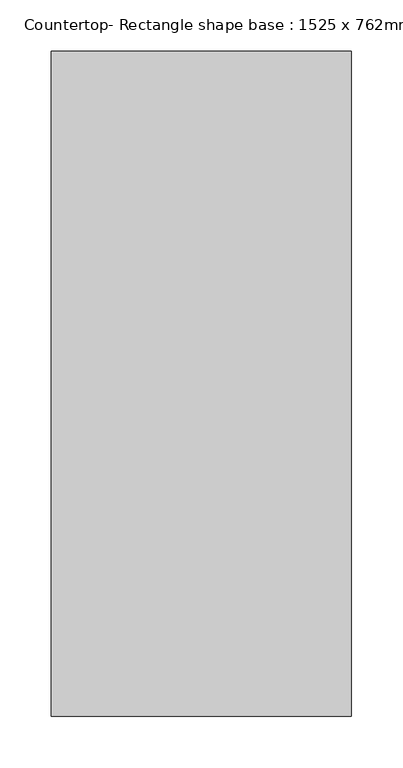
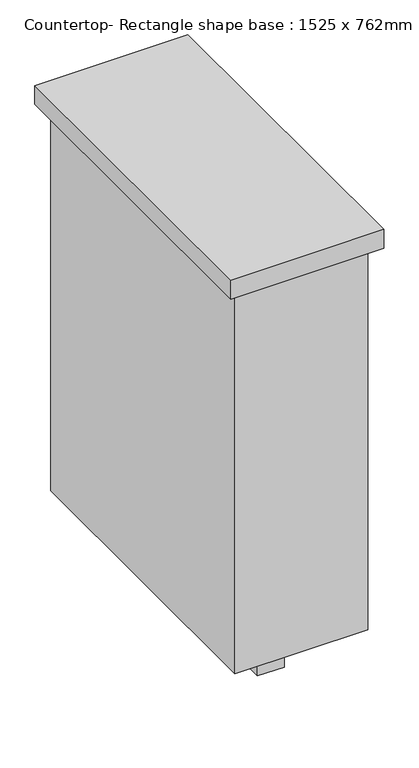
"""IFC4 building model written with IfcOpenShell, lengths in millimetres: proxy geometry, Countertop- Rectangle shape base : 1525 x 762mm."""

from ifc_helpers import new_model, si_unit, frame, origin, origin_with_axes, place, context, project, spatial, polyline, outline, extrude, source, transform, mapped, element, save


def countertop_rectangle_shape_base_1525_x_762mm_0aa604ed(model_context):
    return source(origin(), model_context, "Body", "SweptSolid", [
        extrude(outline(polyline([(615.95, 57.15), (615.95, 704.85), (908.05, 704.85), (908.05, 57.15), (615.95, 57.15)])), frame((0.0, 0.0, 876.3), z_axis=(0.0, 0.0, 1.0), x_axis=(1.0, 0.0, 0.0)), (0.0, 0.0, 1.0), 38.1),
        extrude(outline(polyline([(889.0, 685.8), (889.0, 76.2), (635.0, 76.2), (635.0, 685.8), (889.0, 685.8)])), frame((0.0, 0.0, 101.6), z_axis=(0.0, 0.0, 1.0), x_axis=(1.0, 0.0, 0.0)), (0.0, 0.0, 1.0), 774.7),
        extrude(outline(polyline([(787.4, 584.2), (787.4, 177.8), (736.6, 177.8), (736.6, 584.2), (787.4, 584.2)])), origin_with_axes(), (0.0, 0.0, 1.0), 101.6),
    ])


if __name__ == "__main__":
    model = new_model("IFC4")
    model_context = context("Model", 3, world=origin())
    ifc_project = project(units=[si_unit("LENGTHUNIT", "METRE", prefix="MILLI")], contexts=[model_context])
    site = spatial("IfcSite", under=ifc_project)
    building = spatial("IfcBuilding", under=site)
    placement = place(None, origin())
    countertop_rectangle_shape_base_1525_x_762mm_shape = countertop_rectangle_shape_base_1525_x_762mm_0aa604ed(model_context)
    element("IfcBuildingElementProxy", 1, Name="Countertop- Rectangle shape base : 1525 x 762mm", ObjectType="Countertop- Rectangle shape base : 1525 x 762mm", at=placement, inside=building, context=model_context, shape_type="MappedRepresentation", body=[
        mapped(countertop_rectangle_shape_base_1525_x_762mm_shape, transform((0.0, 0.0, 0.0), x_axis=(1.0, 0.0, 0.0), y_axis=(0.0, 1.0, 0.0), z_axis=(0.0, 0.0, 1.0))),
    ])
    save(model, "model.ifc")
